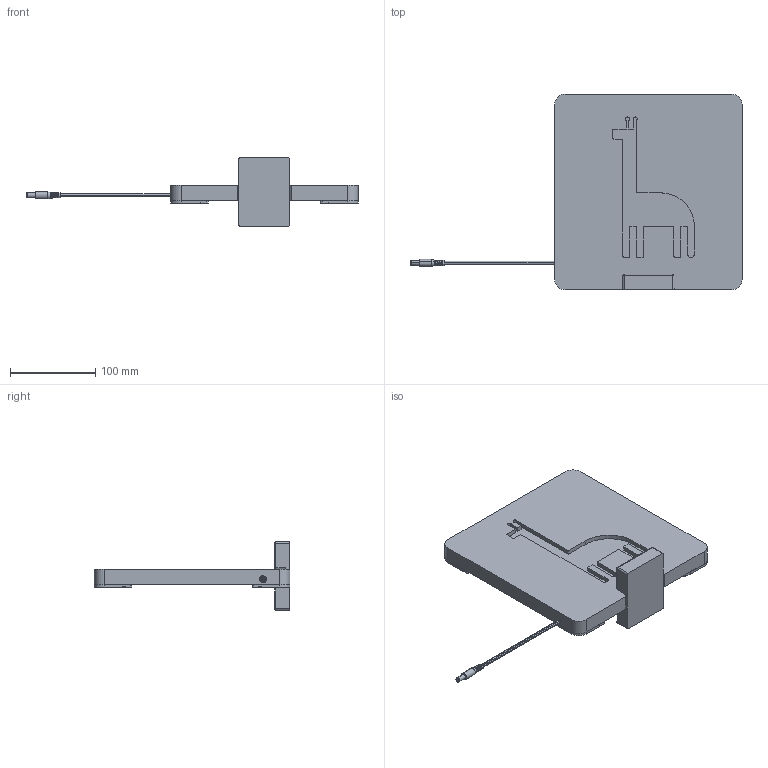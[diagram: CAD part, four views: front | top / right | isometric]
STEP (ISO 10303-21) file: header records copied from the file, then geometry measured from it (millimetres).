
FILE_DESCRIPTION (( 'STEP AP214' ), '1' );
FILE_NAME ('assemblage-ensemble-lampe-plus-support.STEP', '2016-07-25T16:05:38', ( '' ), ( '' ), 'SwSTEP 2.0', 'SolidWorks 2014', '' );
FILE_SCHEMA (( 'AUTOMOTIVE_DESIGN' ));
Length unit declared in the file: millimetre
Products named in the file (15): Resistor1206; assemblage-bande-courbe-40mm; led5050; assemblage-ensemble-lampe-plus-support; assemblage-bande-a-led-8x100; coin-fixation-mirroir; mirroir-200x200; bande-courbee-rayon-40; assemblage-pidtail-5.5-2.5; bande-8x100; Base-bois-principale; Phillips-screw-4x16-sw_0.500 (13mm); assemblage-lampe; support-cadre; assemblage-contour-bande-a-led
Assembly tree (33 placements, depth 5):
  assemblage-ensemble-lampe-plus-support
    assemblage-lampe
      Base-bois-principale
      mirroir-200x200
      assemblage-contour-bande-a-led
        assemblage-bande-a-led-8x100  x4
          bande-8x100
          led5050
          Resistor1206
        assemblage-bande-courbe-40mm  x3
          bande-courbee-rayon-40
          led5050
      assemblage-pidtail-5.5-2.5
      coin-fixation-mirroir  x4
      Phillips-screw-4x16-sw_0.500 (13mm)  x8
    support-cadre
Bounding box: 390.26 x 230 x 80 mm (x, y, z)
Volume: 651754.9 mm3; surface area: 249918.4 mm2
Topology: 72 solids, 82 shells, 3870 faces, 9578 edges, 5336 vertices
Faces by surface type: plane 1594, cylinder 1288, sphere 556, bspline 224, cone 154, torus 54
Entity records: 29933 total; most frequent: CARTESIAN_POINT 9946, ORIENTED_EDGE 3308, DIRECTION 2980, EDGE_CURVE 1662, AXIS2_PLACEMENT_3D 1057, VERTEX_POINT 1052, LINE 866, VECTOR 866
